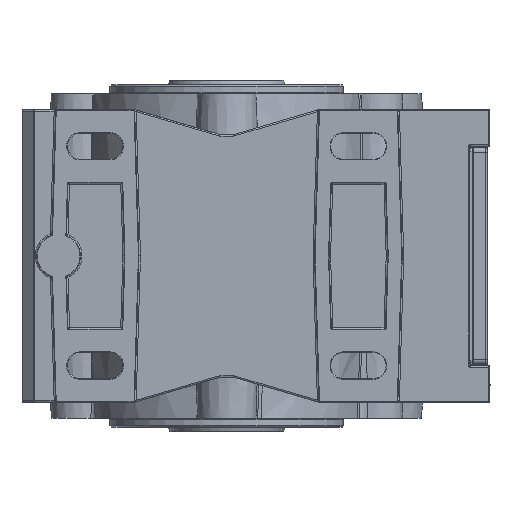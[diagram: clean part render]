
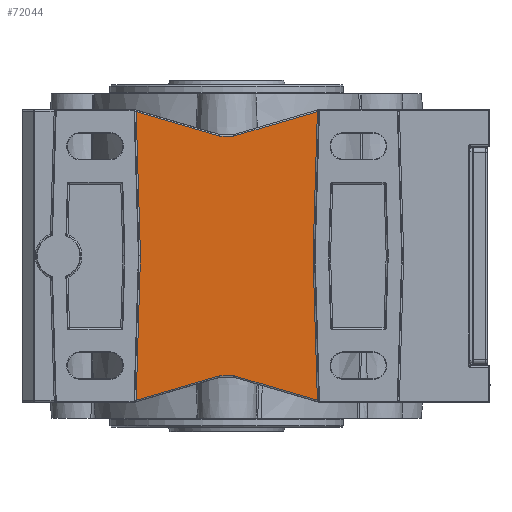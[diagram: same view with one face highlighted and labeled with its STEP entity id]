
A CAD part, left-side view. The second image highlights one B-rep face of the part: STEP entity #72044.
In plain terms, the highlighted planar face has unit normal (-1, 0, 0).
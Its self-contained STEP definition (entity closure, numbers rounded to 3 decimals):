
#66311=CARTESIAN_POINT('',(-69.0,-2.778,-62.561));
#66312=VERTEX_POINT('',#66311);
#66330=CARTESIAN_POINT('',(-69.0,-30.98,-70.826));
#66331=VERTEX_POINT('',#66330);
#66339=CARTESIAN_POINT('',(-69.0,-30.98,-70.826));
#66340=DIRECTION('',(0.0,0.96,0.281));
#66341=VECTOR('',#66340,29.388);
#66342=LINE('',#66339,#66341);
#66343=EDGE_CURVE('',#66331,#66312,#66342,.T.);
#66353=CARTESIAN_POINT('',(-69.0,-2.356,-62.5));
#66354=VERTEX_POINT('',#66353);
#66372=CARTESIAN_POINT('',(-69.0,-2.356,-64.));
#66373=DIRECTION('',(-1.0,0.,0.));
#66374=DIRECTION('',(0.,-0.142,0.99));
#66375=AXIS2_PLACEMENT_3D('',#66372,#66373,#66374);
#66376=CIRCLE('',#66375,1.5);
#66377=EDGE_CURVE('',#66312,#66354,#66376,.T.);
#66387=CARTESIAN_POINT('',(-69.0,2.356,-62.5));
#66388=VERTEX_POINT('',#66387);
#66405=CARTESIAN_POINT('',(-69.0,-2.356,-62.5));
#66406=DIRECTION('',(0.0,1.0,0.0));
#66407=VECTOR('',#66406,4.713);
#66408=LINE('',#66405,#66407);
#66409=EDGE_CURVE('',#66354,#66388,#66408,.T.);
#66419=CARTESIAN_POINT('',(-69.0,2.778,-62.561));
#66420=VERTEX_POINT('',#66419);
#66438=CARTESIAN_POINT('',(-69.0,2.356,-64.));
#66439=DIRECTION('',(-1.0,0.,0.));
#66440=DIRECTION('',(0.,0.142,0.99));
#66441=AXIS2_PLACEMENT_3D('',#66438,#66439,#66440);
#66442=CIRCLE('',#66441,1.5);
#66443=EDGE_CURVE('',#66388,#66420,#66442,.T.);
#66453=CARTESIAN_POINT('',(-69.,30.98,-70.826));
#66454=VERTEX_POINT('',#66453);
#66471=CARTESIAN_POINT('',(-69.0,2.778,-62.561));
#66472=DIRECTION('',(0.,0.96,-0.281));
#66473=VECTOR('',#66472,29.388);
#66474=LINE('',#66471,#66473);
#66475=EDGE_CURVE('',#66420,#66454,#66474,.T.);
#66764=CARTESIAN_POINT('',(-69.0,-29.501,-21.53));
#66765=VERTEX_POINT('',#66764);
#66773=CARTESIAN_POINT('',(-69.0,-29.501,-21.53));
#66774=DIRECTION('',(0.0,-0.03,-1.));
#66775=VECTOR('',#66774,49.319);
#66776=LINE('',#66773,#66775);
#66777=EDGE_CURVE('',#66765,#66331,#66776,.T.);
#67168=CARTESIAN_POINT('',(-69.0,2.778,19.561));
#67169=VERTEX_POINT('',#67168);
#67187=CARTESIAN_POINT('',(-69.,30.98,27.826));
#67188=VERTEX_POINT('',#67187);
#67196=CARTESIAN_POINT('',(-69.,30.98,27.826));
#67197=DIRECTION('',(0.,-0.96,-0.281));
#67198=VECTOR('',#67197,29.388);
#67199=LINE('',#67196,#67198);
#67200=EDGE_CURVE('',#67188,#67169,#67199,.T.);
#67210=CARTESIAN_POINT('',(-69.0,2.356,19.5));
#67211=VERTEX_POINT('',#67210);
#67229=CARTESIAN_POINT('',(-69.0,2.356,21.0));
#67230=DIRECTION('',(-1.0,0.,0.));
#67231=DIRECTION('',(0.,0.142,-0.99));
#67232=AXIS2_PLACEMENT_3D('',#67229,#67230,#67231);
#67233=CIRCLE('',#67232,1.5);
#67234=EDGE_CURVE('',#67169,#67211,#67233,.T.);
#67244=CARTESIAN_POINT('',(-69.0,-2.356,19.5));
#67245=VERTEX_POINT('',#67244);
#67262=CARTESIAN_POINT('',(-69.0,2.356,19.5));
#67263=DIRECTION('',(0.0,-1.0,0.0));
#67264=VECTOR('',#67263,4.713);
#67265=LINE('',#67262,#67264);
#67266=EDGE_CURVE('',#67211,#67245,#67265,.T.);
#67276=CARTESIAN_POINT('',(-69.0,-2.778,19.561));
#67277=VERTEX_POINT('',#67276);
#67295=CARTESIAN_POINT('',(-69.0,-2.356,21.0));
#67296=DIRECTION('',(-1.0,0.,0.));
#67297=DIRECTION('',(0.,-0.142,-0.99));
#67298=AXIS2_PLACEMENT_3D('',#67295,#67296,#67297);
#67299=CIRCLE('',#67298,1.5);
#67300=EDGE_CURVE('',#67245,#67277,#67299,.T.);
#67310=CARTESIAN_POINT('',(-69.0,-30.98,27.826));
#67311=VERTEX_POINT('',#67310);
#67328=CARTESIAN_POINT('',(-69.0,-2.778,19.561));
#67329=DIRECTION('',(0.0,-0.96,0.281));
#67330=VECTOR('',#67329,29.388);
#67331=LINE('',#67328,#67330);
#67332=EDGE_CURVE('',#67277,#67311,#67331,.T.);
#70025=CARTESIAN_POINT('',(-69.,29.5,-21.479));
#70026=VERTEX_POINT('',#70025);
#70034=CARTESIAN_POINT('',(-69.,29.5,-21.479));
#70035=DIRECTION('',(0.0,0.03,1.));
#70036=VECTOR('',#70035,49.328);
#70037=LINE('',#70034,#70036);
#70038=EDGE_CURVE('',#70026,#67188,#70037,.T.);
#70048=CARTESIAN_POINT('',(-69.,29.5,-21.521));
#70049=VERTEX_POINT('',#70048);
#70057=CARTESIAN_POINT('',(-69.,30.2,-21.5));
#70058=DIRECTION('',(-1.0,0.0,0.0));
#70059=DIRECTION('',(0.0,-1.0,0.0));
#70060=AXIS2_PLACEMENT_3D('',#70057,#70058,#70059);
#70061=CIRCLE('',#70060,0.7);
#70062=EDGE_CURVE('',#70049,#70026,#70061,.T.);
#70075=CARTESIAN_POINT('',(-69.,30.98,-70.826));
#70076=DIRECTION('',(0.0,-0.03,1.));
#70077=VECTOR('',#70076,49.328);
#70078=LINE('',#70075,#70077);
#70079=EDGE_CURVE('',#66454,#70049,#70078,.T.);
#71983=CARTESIAN_POINT('',(-69.0,-29.501,-21.47));
#71984=VERTEX_POINT('',#71983);
#71992=CARTESIAN_POINT('',(-69.0,-30.5,-21.5));
#71993=DIRECTION('',(-1.0,0.0,0.0));
#71994=DIRECTION('',(0.0,1.0,0.0));
#71995=AXIS2_PLACEMENT_3D('',#71992,#71993,#71994);
#71996=CIRCLE('',#71995,1.0);
#71997=EDGE_CURVE('',#71984,#66765,#71996,.T.);
#72010=CARTESIAN_POINT('',(-69.0,-30.98,27.826));
#72011=DIRECTION('',(0.0,0.03,-1.));
#72012=VECTOR('',#72011,49.319);
#72013=LINE('',#72010,#72012);
#72014=EDGE_CURVE('',#67311,#71984,#72013,.T.);
#72021=CARTESIAN_POINT('',(-69.0,0.,3.836));
#72022=DIRECTION('',(1.0,0.0,0.0));
#72023=DIRECTION('',(0.0,0.0,-1.0));
#72024=AXIS2_PLACEMENT_3D('',#72021,#72022,#72023);
#72025=PLANE('',#72024);
#72026=ORIENTED_EDGE('',*,*,#66343,.F.);
#72027=ORIENTED_EDGE('',*,*,#66777,.F.);
#72028=ORIENTED_EDGE('',*,*,#71997,.F.);
#72029=ORIENTED_EDGE('',*,*,#72014,.F.);
#72030=ORIENTED_EDGE('',*,*,#67332,.F.);
#72031=ORIENTED_EDGE('',*,*,#67300,.F.);
#72032=ORIENTED_EDGE('',*,*,#67266,.F.);
#72033=ORIENTED_EDGE('',*,*,#67234,.F.);
#72034=ORIENTED_EDGE('',*,*,#67200,.F.);
#72035=ORIENTED_EDGE('',*,*,#70038,.F.);
#72036=ORIENTED_EDGE('',*,*,#70062,.F.);
#72037=ORIENTED_EDGE('',*,*,#70079,.F.);
#72038=ORIENTED_EDGE('',*,*,#66475,.F.);
#72039=ORIENTED_EDGE('',*,*,#66443,.F.);
#72040=ORIENTED_EDGE('',*,*,#66409,.F.);
#72041=ORIENTED_EDGE('',*,*,#66377,.F.);
#72042=EDGE_LOOP('',(#72026,#72027,#72028,#72029,#72030,#72031,#72032,#72033,#72034,#72035,#72036,#72037,#72038,#72039,#72040,#72041));
#72043=FACE_OUTER_BOUND('',#72042,.T.);
#72044=ADVANCED_FACE('',(#72043),#72025,.F.);
